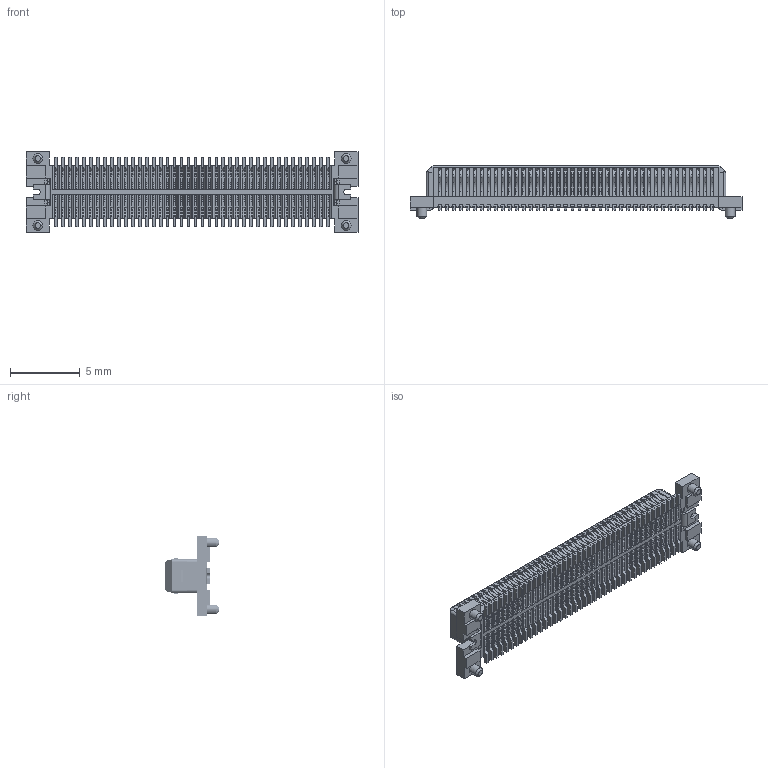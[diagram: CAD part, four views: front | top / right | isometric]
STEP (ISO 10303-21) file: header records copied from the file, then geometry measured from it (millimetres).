
FILE_DESCRIPTION((''),'2;1');
FILE_NAME('PRT0001','2013-09-25T',('Rd_05'),(''),'PRO/ENGINEER BY PARAMETRIC TECHNOLOGY CORPORATION, 2009360','PRO/ENGINEER BY PARAMETRIC TECHNOLOGY CORPORATION, 2009360','');
FILE_SCHEMA(('CONFIG_CONTROL_DESIGN'));
Products named in the file (1): PRT0001
Bounding box: 23.8 x 3.8 x 5.8 mm (x, y, z)
Volume: 150.2 mm3; surface area: 1225.6 mm2
Topology: 1 solids, 1 shells, 5046 faces, 17540 edges, 12096 vertices
Faces by surface type: plane 2856, cylinder 2182, cone 8
Entity records: 192201 total; most frequent: ORIENTED_EDGE 34424, CARTESIAN_POINT 34415, DIRECTION 33122, EDGE_CURVE 17212, VECTOR 12020, LINE 12020, VERTEX_POINT 11768, AXIS2_PLACEMENT_3D 10551
